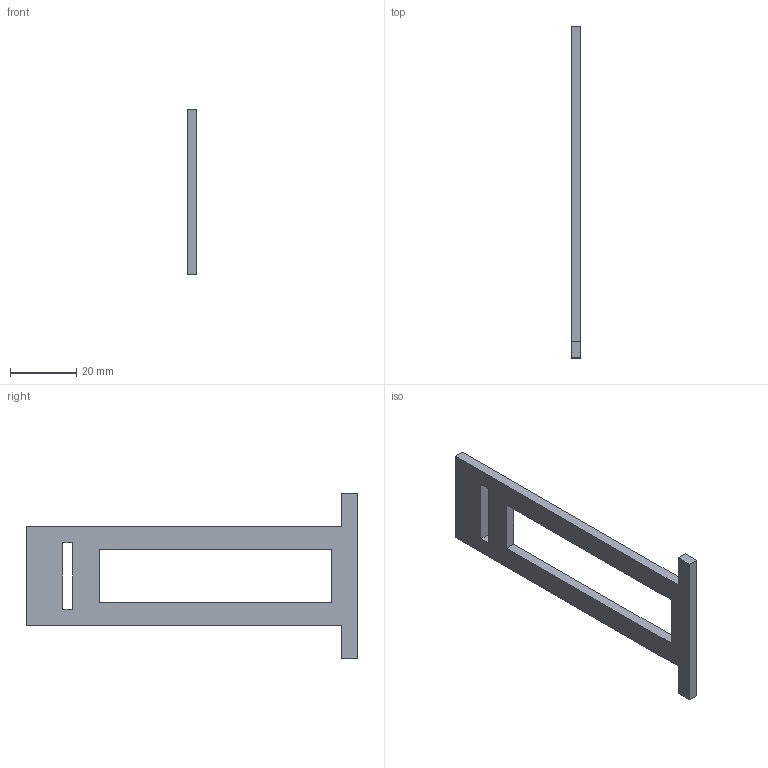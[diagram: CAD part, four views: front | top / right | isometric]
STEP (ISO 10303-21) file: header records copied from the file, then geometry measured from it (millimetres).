
FILE_DESCRIPTION(/* description */ (''),/* implementation_level */ '2;1');
FILE_NAME(/* name */ 'Lock Front.step',/* time_stamp */ '2023-08-12T23:51:39+03:00',/* author */ (''),/* organization */ (''),/* preprocessor_version */ 'ST-DEVELOPER v20',/* originating_system */ 'Autodesk Translation Framework v12.9.0.99',/* authorisation */ '');
FILE_SCHEMA (('AUTOMOTIVE_DESIGN { 1 0 10303 214 3 1 1 }'));
Length unit declared in the file: millimetre
Products named in the file (1): lock front
Bounding box: 3 x 100 x 50 mm (x, y, z)
Volume: 5760 mm3; surface area: 5394 mm2
Topology: 1 solids, 1 shells, 18 faces, 48 edges, 32 vertices
Faces by surface type: plane 18
Entity records: 593 total; most frequent: CARTESIAN_POINT 99, ORIENTED_EDGE 96, DIRECTION 86, LINE 48, VECTOR 48, EDGE_CURVE 48, VERTEX_POINT 32, EDGE_LOOP 22
